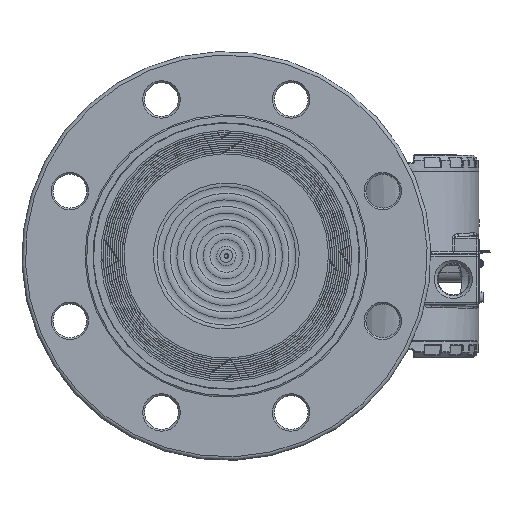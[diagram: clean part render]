
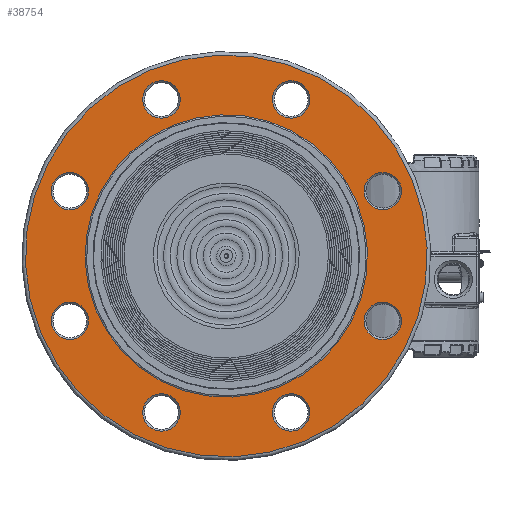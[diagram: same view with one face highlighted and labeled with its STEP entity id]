
A CAD part, top view. The second image highlights one B-rep face of the part: STEP entity #38754.
In plain terms, the highlighted planar face has unit normal (0, 0, 1) as drawn and (-1, 0, 0) by its records, which use the part's own axes.
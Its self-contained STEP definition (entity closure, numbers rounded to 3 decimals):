
#753=FACE_BOUND('',#6589,.T.);
#754=FACE_BOUND('',#6590,.T.);
#755=FACE_BOUND('',#6591,.T.);
#756=FACE_BOUND('',#6592,.T.);
#757=FACE_BOUND('',#6593,.T.);
#758=FACE_BOUND('',#6594,.T.);
#759=FACE_BOUND('',#6595,.T.);
#760=FACE_BOUND('',#6596,.T.);
#761=FACE_BOUND('',#6597,.T.);
#2735=PLANE('',#43057);
#3944=FACE_OUTER_BOUND('',#6588,.T.);
#6588=EDGE_LOOP('',(#29630,#29631));
#6589=EDGE_LOOP('',(#29632));
#6590=EDGE_LOOP('',(#29633));
#6591=EDGE_LOOP('',(#29634));
#6592=EDGE_LOOP('',(#29635));
#6593=EDGE_LOOP('',(#29636,#29637));
#6594=EDGE_LOOP('',(#29638));
#6595=EDGE_LOOP('',(#29639));
#6596=EDGE_LOOP('',(#29640));
#6597=EDGE_LOOP('',(#29641));
#12424=CIRCLE('',#43056,10.5);
#12425=CIRCLE('',#43058,113.);
#12426=CIRCLE('',#43059,113.);
#12427=CIRCLE('',#43060,10.5);
#12428=CIRCLE('',#43061,10.5);
#12429=CIRCLE('',#43062,10.5);
#12430=CIRCLE('',#43063,10.5);
#12431=CIRCLE('',#43064,79.4);
#12432=CIRCLE('',#43065,79.4);
#12433=CIRCLE('',#43066,10.5);
#12434=CIRCLE('',#43067,10.5);
#12435=CIRCLE('',#43068,10.5);
#16915=VERTEX_POINT('',#69073);
#16916=VERTEX_POINT('',#69077);
#16917=VERTEX_POINT('',#69078);
#16918=VERTEX_POINT('',#69081);
#16919=VERTEX_POINT('',#69083);
#16920=VERTEX_POINT('',#69085);
#16921=VERTEX_POINT('',#69087);
#16922=VERTEX_POINT('',#69089);
#16923=VERTEX_POINT('',#69090);
#16924=VERTEX_POINT('',#69093);
#16925=VERTEX_POINT('',#69095);
#16926=VERTEX_POINT('',#69097);
#21394=EDGE_CURVE('',#16915,#16915,#12424,.T.);
#21396=EDGE_CURVE('',#16916,#16917,#12425,.T.);
#21397=EDGE_CURVE('',#16917,#16916,#12426,.T.);
#21398=EDGE_CURVE('',#16918,#16918,#12427,.T.);
#21399=EDGE_CURVE('',#16919,#16919,#12428,.T.);
#21400=EDGE_CURVE('',#16920,#16920,#12429,.T.);
#21401=EDGE_CURVE('',#16921,#16921,#12430,.T.);
#21402=EDGE_CURVE('',#16922,#16923,#12431,.T.);
#21403=EDGE_CURVE('',#16923,#16922,#12432,.T.);
#21404=EDGE_CURVE('',#16924,#16924,#12433,.T.);
#21405=EDGE_CURVE('',#16925,#16925,#12434,.T.);
#21406=EDGE_CURVE('',#16926,#16926,#12435,.T.);
#29630=ORIENTED_EDGE('',*,*,#21396,.F.);
#29631=ORIENTED_EDGE('',*,*,#21397,.F.);
#29632=ORIENTED_EDGE('',*,*,#21398,.F.);
#29633=ORIENTED_EDGE('',*,*,#21399,.F.);
#29634=ORIENTED_EDGE('',*,*,#21400,.F.);
#29635=ORIENTED_EDGE('',*,*,#21401,.F.);
#29636=ORIENTED_EDGE('',*,*,#21402,.T.);
#29637=ORIENTED_EDGE('',*,*,#21403,.T.);
#29638=ORIENTED_EDGE('',*,*,#21404,.F.);
#29639=ORIENTED_EDGE('',*,*,#21405,.F.);
#29640=ORIENTED_EDGE('',*,*,#21406,.F.);
#29641=ORIENTED_EDGE('',*,*,#21394,.F.);
#38754=ADVANCED_FACE('',(#3944,#753,#754,#755,#756,#757,#758,#759,#760,
#761),#2735,.T.);
#43056=AXIS2_PLACEMENT_3D('',#69074,#50989,#50990);
#43057=AXIS2_PLACEMENT_3D('',#69076,#50992,#50993);
#43058=AXIS2_PLACEMENT_3D('',#69079,#50994,#50995);
#43059=AXIS2_PLACEMENT_3D('',#69080,#50996,#50997);
#43060=AXIS2_PLACEMENT_3D('',#69082,#50998,#50999);
#43061=AXIS2_PLACEMENT_3D('',#69084,#51000,#51001);
#43062=AXIS2_PLACEMENT_3D('',#69086,#51002,#51003);
#43063=AXIS2_PLACEMENT_3D('',#69088,#51004,#51005);
#43064=AXIS2_PLACEMENT_3D('',#69091,#51006,#51007);
#43065=AXIS2_PLACEMENT_3D('',#69092,#51008,#51009);
#43066=AXIS2_PLACEMENT_3D('',#69094,#51010,#51011);
#43067=AXIS2_PLACEMENT_3D('',#69096,#51012,#51013);
#43068=AXIS2_PLACEMENT_3D('',#69098,#51014,#51015);
#50989=DIRECTION('center_axis',(-1.,0.,0.));
#50990=DIRECTION('ref_axis',(0.,-0.707,-0.707));
#50992=DIRECTION('center_axis',(-1.,0.,0.));
#50993=DIRECTION('ref_axis',(0.,0.,1.));
#50994=DIRECTION('center_axis',(1.,0.,0.));
#50995=DIRECTION('ref_axis',(0.,1.,0.));
#50996=DIRECTION('center_axis',(1.,0.,0.));
#50997=DIRECTION('ref_axis',(0.,1.,0.));
#50998=DIRECTION('center_axis',(-1.,0.,0.));
#50999=DIRECTION('ref_axis',(0.,-1.,0.));
#51000=DIRECTION('center_axis',(-1.,0.,0.));
#51001=DIRECTION('ref_axis',(0.,0.,1.));
#51002=DIRECTION('center_axis',(-1.,0.,0.));
#51003=DIRECTION('ref_axis',(0.,1.,0.));
#51004=DIRECTION('center_axis',(-1.,0.,0.));
#51005=DIRECTION('ref_axis',(0.,0.,-1.));
#51006=DIRECTION('center_axis',(1.,0.,0.));
#51007=DIRECTION('ref_axis',(0.,1.,0.));
#51008=DIRECTION('center_axis',(1.,0.,0.));
#51009=DIRECTION('ref_axis',(0.,1.,0.));
#51010=DIRECTION('center_axis',(-1.,0.,0.));
#51011=DIRECTION('ref_axis',(0.,0.707,-0.707));
#51012=DIRECTION('center_axis',(-1.,0.,0.));
#51013=DIRECTION('ref_axis',(0.,0.707,0.707));
#51014=DIRECTION('center_axis',(-1.,0.,0.));
#51015=DIRECTION('ref_axis',(0.,-0.707,0.707));
#69073=CARTESIAN_POINT('',(2.,74.777,74.777));
#69074=CARTESIAN_POINT('Origin',(2.,67.352,67.352));
#69076=CARTESIAN_POINT('Origin',(2.,96.2,0.));
#69077=CARTESIAN_POINT('',(2.,113.,0.));
#69078=CARTESIAN_POINT('',(2.,0.,113.));
#69079=CARTESIAN_POINT('Origin',(2.,0.,0.));
#69080=CARTESIAN_POINT('Origin',(2.,0.,0.));
#69081=CARTESIAN_POINT('',(2.,105.75,0.));
#69082=CARTESIAN_POINT('Origin',(2.,95.25,0.));
#69083=CARTESIAN_POINT('',(2.,0.,-105.75));
#69084=CARTESIAN_POINT('Origin',(2.,0.,-95.25));
#69085=CARTESIAN_POINT('',(2.,-105.75,0.));
#69086=CARTESIAN_POINT('Origin',(2.,-95.25,0.));
#69087=CARTESIAN_POINT('',(2.,0.,105.75));
#69088=CARTESIAN_POINT('Origin',(2.,0.,95.25));
#69089=CARTESIAN_POINT('',(2.,79.4,0.));
#69090=CARTESIAN_POINT('',(2.,0.,79.4));
#69091=CARTESIAN_POINT('Origin',(2.,0.,0.));
#69092=CARTESIAN_POINT('Origin',(2.,0.,0.));
#69093=CARTESIAN_POINT('',(2.,-74.777,74.777));
#69094=CARTESIAN_POINT('Origin',(2.,-67.352,67.352));
#69095=CARTESIAN_POINT('',(2.,-74.777,-74.777));
#69096=CARTESIAN_POINT('Origin',(2.,-67.352,-67.352));
#69097=CARTESIAN_POINT('',(2.,74.777,-74.777));
#69098=CARTESIAN_POINT('Origin',(2.,67.352,-67.352));
